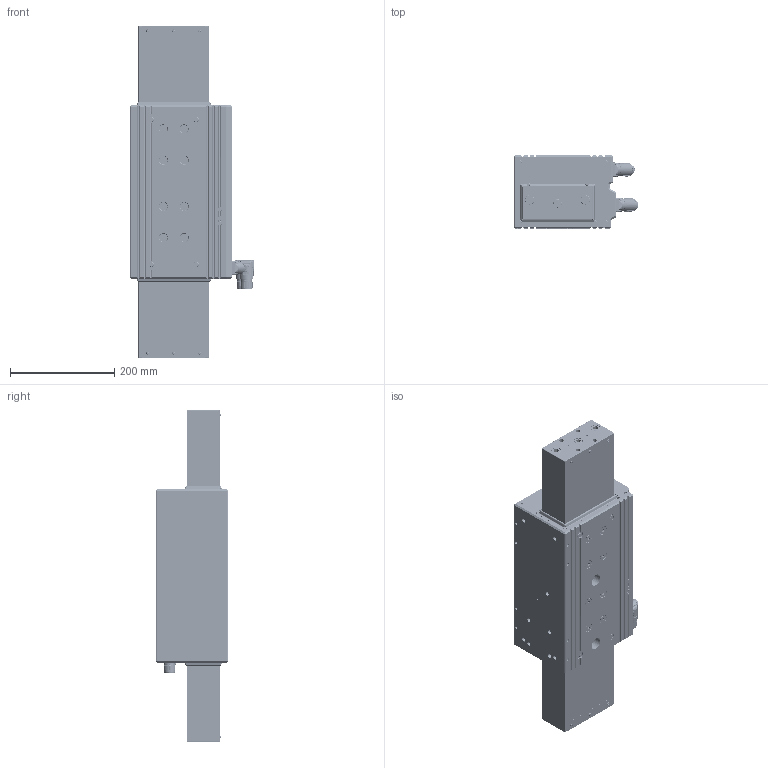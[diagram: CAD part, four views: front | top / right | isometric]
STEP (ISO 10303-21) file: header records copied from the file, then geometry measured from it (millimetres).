
FILE_DESCRIPTION((''),'2;1');
FILE_NAME('LDAT-100-DUMMY_ASM','2012-05-17T',('als'),('Rockwell Automation'),'PRO/ENGINEER BY PARAMETRIC TECHNOLOGY CORPORATION, 2007390','PRO/ENGINEER BY PARAMETRIC TECHNOLOGY CORPORATION, 2007390','');
FILE_SCHEMA(('CONFIG_CONTROL_DESIGN'));
Length unit declared in the file: millimetre
Products named in the file (33): B627631-100-A_AF1; D627756-100-200_ASM; D627768-100; D627769-100; B627834; D627739-100; LDAT-100-SLIDER-DUMMY-600; B627686-100; A805843-1; A805843-2; A805843-4; A805843-3_ASM; A805843-5; A805843-6; A805843_ASM; A805844-1; A805844-2; A805844-3; A805844_ASM; B805901-E1-NT_ASM; DIN7991-12_9-8X22-ZP; 627795; 627815; DIN912-3X8; DIN912-2_5X12; 627849; DIN7991-12_9-5X30-ZP; DIN912-12X50; DIN912-10X16; B627690-100; ISO7380-3X6; DIN7991-10_9-5X30-ZP; LDAT-100-DUMMY_ASM
Assembly tree (91 placements, depth 4):
  LDAT-100-DUMMY_ASM
    D627756-100-200_ASM
      B627631-100-A_AF1
    D627768-100
    D627769-100
    B627834
    D627739-100  x2
    LDAT-100-SLIDER-DUMMY-600
    B627686-100  x2
    A805843_ASM
      A805843-1
      A805843-2
      A805843-3_ASM
        A805843-4
      A805843-5  x4
      A805843-6  x2
    B805901-E1-NT_ASM
      A805844_ASM
        A805844-1
        A805844-2
        A805844-3
    DIN7991-12_9-8X22-ZP  x8
    627795  x4
    627815  x3
    DIN912-3X8  x14
    DIN912-2_5X12  x8
    627849  x6
    DIN7991-12_9-5X30-ZP  x4
    DIN912-12X50  x4
    DIN912-10X16  x2
    B627690-100  x2
    ISO7380-3X6  x6
    DIN7991-10_9-5X30-ZP  x4
Bounding box: 239.05 x 140 x 638.1 mm (x, y, z)
Volume: 8889790.9 mm3; surface area: 1046370.8 mm2
Topology: 86 solids, 101 shells, 6327 faces, 17433 edges, 11391 vertices
Faces by surface type: cylinder 2530, plane 1724, bspline 834, cone 575, torus 542, sphere 117, extrusion 3, revolution 2
Entity records: 237758 total; most frequent: CARTESIAN_POINT 119879, ORIENTED_EDGE 26810, DIRECTION 21933, EDGE_CURVE 13430, AXIS2_PLACEMENT_3D 8935, VERTEX_POINT 8925, EDGE_LOOP 5081, CIRCLE 4901
